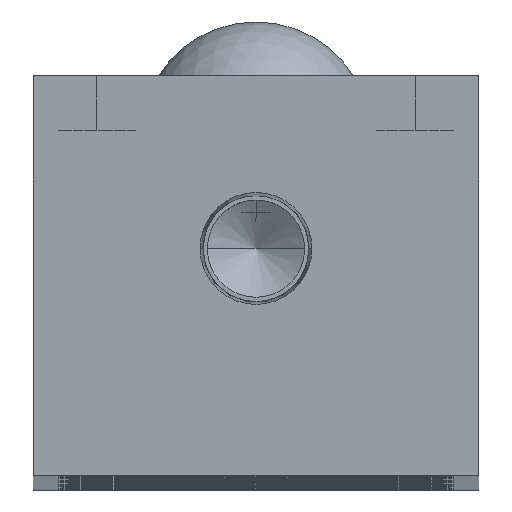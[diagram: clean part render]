
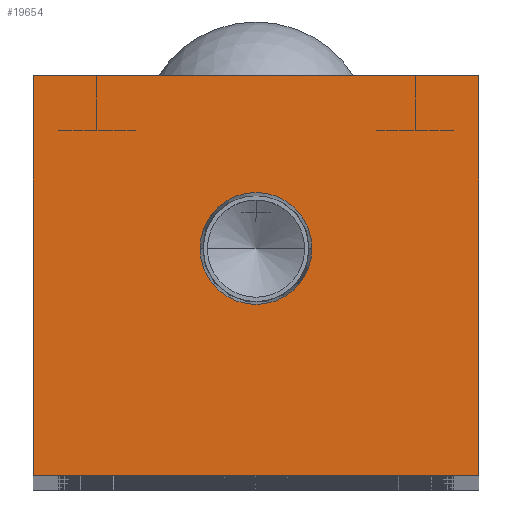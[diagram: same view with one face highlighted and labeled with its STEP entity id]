
A CAD part, top view. The second image highlights one B-rep face of the part: STEP entity #19654.
In plain terms, the highlighted planar face has unit normal (0, 0, 1).
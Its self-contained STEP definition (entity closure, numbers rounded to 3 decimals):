
#331 = CARTESIAN_POINT ( 'NONE',  ( 6.154, 25., 0. ) ) ;
#526 = VERTEX_POINT ( 'NONE', #4808 ) ;
#2200 = CARTESIAN_POINT ( 'NONE',  ( 0., 25., 0. ) ) ;
#3297 = DIRECTION ( 'NONE',  ( 1., 0., 0. ) ) ;
#4027 = DIRECTION ( 'NONE',  ( 1., 0., 0. ) ) ;
#4632 = DIRECTION ( 'NONE',  ( 0., 0., 1. ) ) ;
#4808 = CARTESIAN_POINT ( 'NONE',  ( -24.5, 44., 0. ) ) ;
#5122 = CARTESIAN_POINT ( 'NONE',  ( -24.5, 0., 0. ) ) ;
#5135 = CARTESIAN_POINT ( 'NONE',  ( 24.5, 0., 0. ) ) ;
#5418 = VERTEX_POINT ( 'NONE', #19168 ) ;
#5553 = VERTEX_POINT ( 'NONE', #12406 ) ;
#5601 = LINE ( 'NONE', #5135, #9752 ) ;
#5672 = ORIENTED_EDGE ( 'NONE', *, *, #17317, .F. ) ;
#6171 = ORIENTED_EDGE ( 'NONE', *, *, #20200, .F. ) ;
#6912 = DIRECTION ( 'NONE',  ( 0., -1., 0. ) ) ;
#6937 = AXIS2_PLACEMENT_3D ( 'NONE', #15398, #4632, #17190 ) ;
#7781 = ORIENTED_EDGE ( 'NONE', *, *, #21401, .T. ) ;
#7802 = FACE_BOUND ( 'NONE', #9376, .T. ) ;
#7888 = DIRECTION ( 'NONE',  ( 0., 1., 0. ) ) ;
#8279 = LINE ( 'NONE', #5122, #16744 ) ;
#9376 = EDGE_LOOP ( 'NONE', ( #5672, #6171 ) ) ;
#9394 = VECTOR ( 'NONE', #7888, 1000. ) ;
#9440 = VERTEX_POINT ( 'NONE', #22888 ) ;
#9752 = VECTOR ( 'NONE', #3297, 1000. ) ;
#9965 = CARTESIAN_POINT ( 'NONE',  ( 0., 0., 0. ) ) ;
#10419 = VERTEX_POINT ( 'NONE', #16511 ) ;
#10554 = ORIENTED_EDGE ( 'NONE', *, *, #20686, .T. ) ;
#11751 = DIRECTION ( 'NONE',  ( -1., 0., 0. ) ) ;
#12380 = ORIENTED_EDGE ( 'NONE', *, *, #21760, .T. ) ;
#12406 = CARTESIAN_POINT ( 'NONE',  ( 24.5, 0., 0. ) ) ;
#13205 = CARTESIAN_POINT ( 'NONE',  ( -24.5, 44., 0. ) ) ;
#14811 = DIRECTION ( 'NONE',  ( 0., 0., 1. ) ) ;
#15263 = EDGE_LOOP ( 'NONE', ( #7781, #18355, #12380, #10554 ) ) ;
#15321 = LINE ( 'NONE', #22207, #9394 ) ;
#15398 = CARTESIAN_POINT ( 'NONE',  ( 0., 25., 0. ) ) ;
#15885 = VERTEX_POINT ( 'NONE', #331 ) ;
#16511 = CARTESIAN_POINT ( 'NONE',  ( -24.5, 0., 0. ) ) ;
#16744 = VECTOR ( 'NONE', #6912, 1000. ) ;
#16780 = DIRECTION ( 'NONE',  ( -1., 0., 0. ) ) ;
#17190 = DIRECTION ( 'NONE',  ( 1., 0., 0. ) ) ;
#17317 = EDGE_CURVE ( 'NONE', #15885, #9440, #20478, .T. ) ;
#18176 = LINE ( 'NONE', #13205, #22308 ) ;
#18192 = CIRCLE ( 'NONE', #6937, 6.154 ) ;
#18291 = EDGE_CURVE ( 'NONE', #10419, #5553, #5601, .T. ) ;
#18344 = AXIS2_PLACEMENT_3D ( 'NONE', #2200, #14811, #4027 ) ;
#18355 = ORIENTED_EDGE ( 'NONE', *, *, #18291, .T. ) ;
#19168 = CARTESIAN_POINT ( 'NONE',  ( 24.5, 44., 0. ) ) ;
#19654 = ADVANCED_FACE ( 'NONE', ( #7802, #22643 ), #20627, .F. ) ;
#20200 = EDGE_CURVE ( 'NONE', #9440, #15885, #18192, .T. ) ;
#20279 = AXIS2_PLACEMENT_3D ( 'NONE', #9965, #22486, #11751 ) ;
#20478 = CIRCLE ( 'NONE', #18344, 6.154 ) ;
#20627 = PLANE ( 'NONE',  #20279 ) ;
#20686 = EDGE_CURVE ( 'NONE', #5418, #526, #18176, .T. ) ;
#21401 = EDGE_CURVE ( 'NONE', #526, #10419, #8279, .T. ) ;
#21760 = EDGE_CURVE ( 'NONE', #5553, #5418, #15321, .T. ) ;
#22207 = CARTESIAN_POINT ( 'NONE',  ( 24.5, 44., 0. ) ) ;
#22308 = VECTOR ( 'NONE', #16780, 1000. ) ;
#22486 = DIRECTION ( 'NONE',  ( 0., 0., -1. ) ) ;
#22643 = FACE_OUTER_BOUND ( 'NONE', #15263, .T. ) ;
#22888 = CARTESIAN_POINT ( 'NONE',  ( -6.154, 25., 0. ) ) ;
